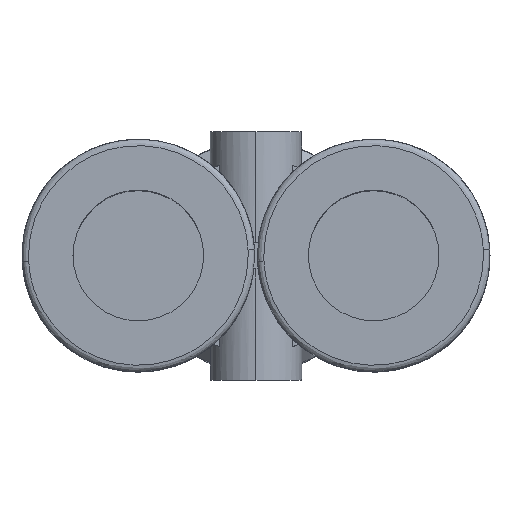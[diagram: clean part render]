
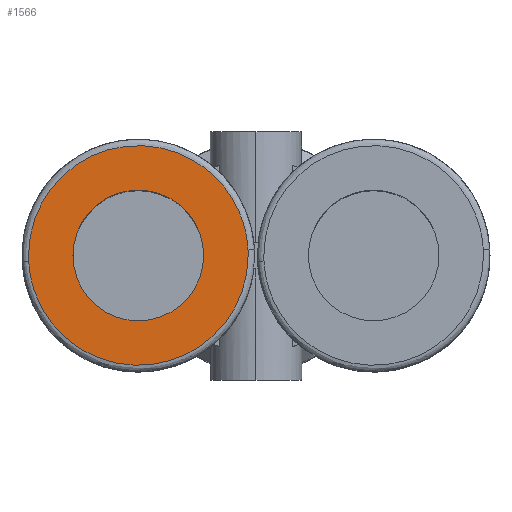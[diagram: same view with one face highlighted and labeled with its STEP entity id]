
A CAD part, top view. The second image highlights one B-rep face of the part: STEP entity #1566.
In plain terms, the highlighted planar face has unit normal (0, 0, 1).
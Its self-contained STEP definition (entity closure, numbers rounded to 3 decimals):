
#219 = ORIENTED_EDGE ( 'NONE', *, *, #3565, .F. ) ;
#227 = VERTEX_POINT ( 'NONE', #4929 ) ;
#383 = VERTEX_POINT ( 'NONE', #1105 ) ;
#395 = EDGE_CURVE ( 'NONE', #383, #227, #947, .T. ) ;
#476 = EDGE_LOOP ( 'NONE', ( #6944, #3106, #219, #3423 ) ) ;
#668 =( BOUNDED_CURVE ( )  B_SPLINE_CURVE ( 3, ( #1478, #1805, #1780, #1451 ),
 .UNSPECIFIED., .F., .F. ) 
 B_SPLINE_CURVE_WITH_KNOTS ( ( 4, 4 ),
 ( 0., 0.982 ),
 .UNSPECIFIED. ) 
 CURVE ( )  GEOMETRIC_REPRESENTATION_ITEM ( )  RATIONAL_B_SPLINE_CURVE ( ( 1., 0.352, 0.352, 1. ) ) 
 REPRESENTATION_ITEM ( '' )  );
#685 = CARTESIAN_POINT ( 'NONE',  ( -9., 0., 23.5 ) ) ;
#701 = CARTESIAN_POINT ( 'NONE',  ( -17.4, 0., 23.5 ) ) ;
#947 = CIRCLE ( 'NONE', #7186, 5. ) ;
#1021 = FACE_BOUND ( 'NONE', #6678, .T. ) ;
#1059 = DIRECTION ( 'NONE',  ( -1., 0., 0. ) ) ;
#1060 = CARTESIAN_POINT ( 'NONE',  ( -17.396, -0.314, 23.5 ) ) ;
#1097 = CARTESIAN_POINT ( 'NONE',  ( -0.6, 0., 23.5 ) ) ;
#1105 = CARTESIAN_POINT ( 'NONE',  ( -14., 0., 23.5 ) ) ;
#1109 = CARTESIAN_POINT ( 'NONE',  ( -0.6, 0.157, 23.5 ) ) ;
#1248 = CARTESIAN_POINT ( 'NONE',  ( -0.604, 0.314, 23.5 ) ) ;
#1373 = CARTESIAN_POINT ( 'NONE',  ( -0.613, 0.47, 23.5 ) ) ;
#1425 = CARTESIAN_POINT ( 'NONE',  ( -17.387, -0.47, 23.5 ) ) ;
#1451 = CARTESIAN_POINT ( 'NONE',  ( -17.387, -0.47, 23.5 ) ) ;
#1478 = CARTESIAN_POINT ( 'NONE',  ( -0.6, 0., 23.5 ) ) ;
#1513 = DIRECTION ( 'NONE',  ( 0., 0., -1. ) ) ;
#1566 = ADVANCED_FACE ( '94', ( #1021, #4056 ), #5285, .T. ) ;
#1697 = AXIS2_PLACEMENT_3D ( 'NONE', #6624, #6520, #6504 ) ;
#1765 = CARTESIAN_POINT ( 'NONE',  ( -0.6, 0., 23.5 ) ) ;
#1780 = CARTESIAN_POINT ( 'NONE',  ( -16.496, -16.348, 23.5 ) ) ;
#1786 = VERTEX_POINT ( 'NONE', #3655 ) ;
#1805 = CARTESIAN_POINT ( 'NONE',  ( -0.6, -15.903, 23.5 ) ) ;
#1854 = EDGE_CURVE ( 'NONE', #4896, #4416, #668, .T. ) ;
#1868 = EDGE_CURVE ( 'NONE', #1786, #4896, #4420, .T. ) ;
#2277 = EDGE_CURVE ( 'NONE', #4416, #4678, #2366, .T. ) ;
#2365 =( BOUNDED_CURVE ( )  B_SPLINE_CURVE ( 3, ( #3540, #3709, #3509, #3493 ),
 .UNSPECIFIED., .F., .F. ) 
 B_SPLINE_CURVE_WITH_KNOTS ( ( 4, 4 ),
 ( 0., 0.982 ),
 .UNSPECIFIED. ) 
 CURVE ( )  GEOMETRIC_REPRESENTATION_ITEM ( )  RATIONAL_B_SPLINE_CURVE ( ( 1., 0.352, 0.352, 1. ) ) 
 REPRESENTATION_ITEM ( '' )  );
#2366 =( BOUNDED_CURVE ( )  B_SPLINE_CURVE ( 3, ( #1425, #1060, #7185, #701 ),
 .UNSPECIFIED., .F., .T. ) 
 B_SPLINE_CURVE_WITH_KNOTS ( ( 4, 4 ),
 ( 0.982, 1. ),
 .UNSPECIFIED. ) 
 CURVE ( )  GEOMETRIC_REPRESENTATION_ITEM ( )  RATIONAL_B_SPLINE_CURVE ( ( 1., 1., 1., 1. ) ) 
 REPRESENTATION_ITEM ( '' )  );
#2401 = DIRECTION ( 'NONE',  ( 1., 0., 0. ) ) ;
#2486 = DIRECTION ( 'NONE',  ( 0., 0., 1. ) ) ;
#2579 = ORIENTED_EDGE ( 'NONE', *, *, #395, .T. ) ;
#2794 = EDGE_CURVE ( 'NONE', #227, #383, #7052, .T. ) ;
#3106 = ORIENTED_EDGE ( 'NONE', *, *, #1868, .F. ) ;
#3423 = ORIENTED_EDGE ( 'NONE', *, *, #2277, .F. ) ;
#3493 = CARTESIAN_POINT ( 'NONE',  ( -0.613, 0.47, 23.5 ) ) ;
#3509 = CARTESIAN_POINT ( 'NONE',  ( -1.504, 16.348, 23.5 ) ) ;
#3540 = CARTESIAN_POINT ( 'NONE',  ( -17.4, 0., 23.5 ) ) ;
#3565 = EDGE_CURVE ( 'NONE', #4678, #1786, #2365, .T. ) ;
#3655 = CARTESIAN_POINT ( 'NONE',  ( -0.613, 0.47, 23.5 ) ) ;
#3709 = CARTESIAN_POINT ( 'NONE',  ( -17.4, 15.903, 23.5 ) ) ;
#4029 = AXIS2_PLACEMENT_3D ( 'NONE', #5541, #2486, #2401 ) ;
#4056 = FACE_OUTER_BOUND ( 'NONE', #476, .T. ) ;
#4143 = ORIENTED_EDGE ( 'NONE', *, *, #2794, .T. ) ;
#4416 = VERTEX_POINT ( 'NONE', #6951 ) ;
#4420 =( BOUNDED_CURVE ( )  B_SPLINE_CURVE ( 3, ( #1373, #1248, #1109, #1097 ),
 .UNSPECIFIED., .F., .T. ) 
 B_SPLINE_CURVE_WITH_KNOTS ( ( 4, 4 ),
 ( 0.982, 1. ),
 .UNSPECIFIED. ) 
 CURVE ( )  GEOMETRIC_REPRESENTATION_ITEM ( )  RATIONAL_B_SPLINE_CURVE ( ( 1., 1., 1., 1. ) ) 
 REPRESENTATION_ITEM ( '' )  );
#4678 = VERTEX_POINT ( 'NONE', #6154 ) ;
#4896 = VERTEX_POINT ( 'NONE', #1765 ) ;
#4929 = CARTESIAN_POINT ( 'NONE',  ( -4., 0., 23.5 ) ) ;
#5285 = PLANE ( 'NONE',  #4029 ) ;
#5541 = CARTESIAN_POINT ( 'NONE',  ( -0.1, 8.9, 23.5 ) ) ;
#6154 = CARTESIAN_POINT ( 'NONE',  ( -17.4, 0., 23.5 ) ) ;
#6504 = DIRECTION ( 'NONE',  ( -1., 0., 0. ) ) ;
#6520 = DIRECTION ( 'NONE',  ( 0., 0., -1. ) ) ;
#6624 = CARTESIAN_POINT ( 'NONE',  ( -9., 0., 23.5 ) ) ;
#6678 = EDGE_LOOP ( 'NONE', ( #2579, #4143 ) ) ;
#6944 = ORIENTED_EDGE ( 'NONE', *, *, #1854, .F. ) ;
#6951 = CARTESIAN_POINT ( 'NONE',  ( -17.387, -0.47, 23.5 ) ) ;
#7052 = CIRCLE ( 'NONE', #1697, 5. ) ;
#7185 = CARTESIAN_POINT ( 'NONE',  ( -17.4, -0.157, 23.5 ) ) ;
#7186 = AXIS2_PLACEMENT_3D ( 'NONE', #685, #1513, #1059 ) ;
